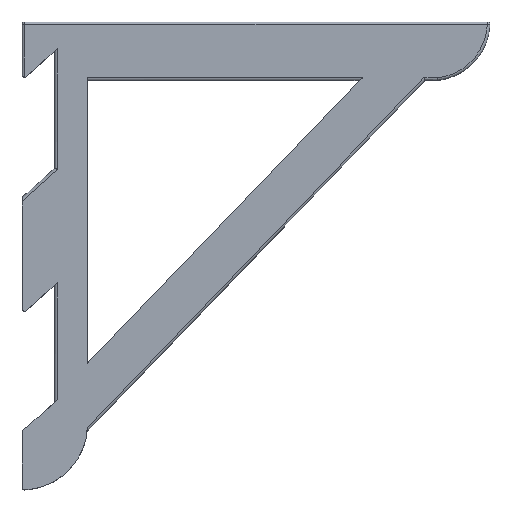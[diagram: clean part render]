
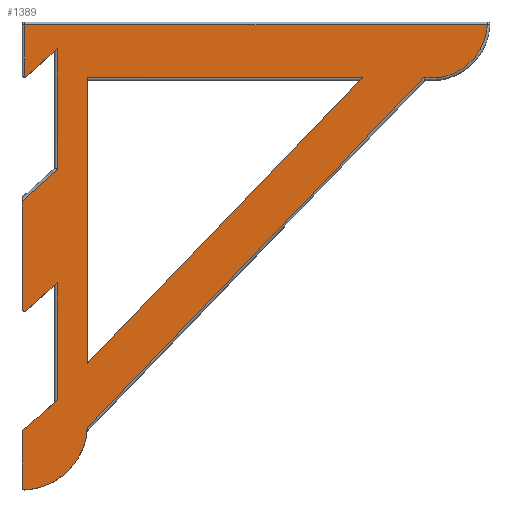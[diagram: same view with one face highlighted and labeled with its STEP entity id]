
A CAD part, top view. The second image highlights one B-rep face of the part: STEP entity #1389.
In plain terms, the highlighted planar face has unit normal (0, 0, 1).
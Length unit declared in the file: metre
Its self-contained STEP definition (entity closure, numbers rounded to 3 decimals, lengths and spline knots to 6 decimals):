
#78=CIRCLE('',#1480,0.031926);
#81=CIRCLE('',#1501,0.00127);
#82=CIRCLE('',#1502,0.00127);
#83=CIRCLE('',#1503,0.00127);
#84=CIRCLE('',#1504,0.027464);
#85=CIRCLE('',#1505,0.00127);
#267=ORIENTED_EDGE('',*,*,#655,.F.);
#268=ORIENTED_EDGE('',*,*,#681,.T.);
#269=ORIENTED_EDGE('',*,*,#682,.T.);
#270=ORIENTED_EDGE('',*,*,#600,.F.);
#271=ORIENTED_EDGE('',*,*,#683,.T.);
#272=ORIENTED_EDGE('',*,*,#666,.F.);
#273=ORIENTED_EDGE('',*,*,#684,.T.);
#274=ORIENTED_EDGE('',*,*,#672,.F.);
#275=ORIENTED_EDGE('',*,*,#685,.T.);
#276=ORIENTED_EDGE('',*,*,#674,.F.);
#277=ORIENTED_EDGE('',*,*,#686,.T.);
#278=ORIENTED_EDGE('',*,*,#633,.T.);
#279=ORIENTED_EDGE('',*,*,#687,.T.);
#280=ORIENTED_EDGE('',*,*,#688,.T.);
#281=ORIENTED_EDGE('',*,*,#689,.T.);
#282=ORIENTED_EDGE('',*,*,#690,.T.);
#283=ORIENTED_EDGE('',*,*,#691,.T.);
#284=ORIENTED_EDGE('',*,*,#692,.T.);
#285=ORIENTED_EDGE('',*,*,#693,.T.);
#286=ORIENTED_EDGE('',*,*,#679,.F.);
#287=ORIENTED_EDGE('',*,*,#625,.F.);
#600=EDGE_CURVE('',#812,#813,#940,.T.);
#625=EDGE_CURVE('',#837,#833,#951,.T.);
#633=EDGE_CURVE('',#840,#844,#78,.T.);
#655=EDGE_CURVE('',#863,#859,#975,.T.);
#666=EDGE_CURVE('',#872,#868,#985,.T.);
#672=EDGE_CURVE('',#876,#877,#991,.T.);
#674=EDGE_CURVE('',#878,#879,#992,.T.);
#679=EDGE_CURVE('',#833,#882,#997,.T.);
#681=EDGE_CURVE('',#863,#883,#998,.T.);
#682=EDGE_CURVE('',#883,#813,#999,.F.);
#683=EDGE_CURVE('',#812,#868,#81,.T.);
#684=EDGE_CURVE('',#872,#877,#1000,.F.);
#685=EDGE_CURVE('',#876,#879,#82,.T.);
#686=EDGE_CURVE('',#878,#840,#83,.T.);
#687=EDGE_CURVE('',#844,#884,#1001,.F.);
#688=EDGE_CURVE('',#884,#885,#1002,.T.);
#689=EDGE_CURVE('',#885,#886,#84,.T.);
#690=EDGE_CURVE('',#886,#887,#1003,.F.);
#691=EDGE_CURVE('',#887,#888,#1004,.F.);
#692=EDGE_CURVE('',#888,#859,#85,.T.);
#693=EDGE_CURVE('',#837,#882,#1005,.T.);
#812=VERTEX_POINT('',#1971);
#813=VERTEX_POINT('',#1972);
#833=VERTEX_POINT('',#2038);
#837=VERTEX_POINT('',#2045);
#840=VERTEX_POINT('',#2055);
#844=VERTEX_POINT('',#2067);
#859=VERTEX_POINT('',#2107);
#863=VERTEX_POINT('',#2114);
#868=VERTEX_POINT('',#2130);
#872=VERTEX_POINT('',#2137);
#876=VERTEX_POINT('',#2149);
#877=VERTEX_POINT('',#2151);
#878=VERTEX_POINT('',#2155);
#879=VERTEX_POINT('',#2156);
#882=VERTEX_POINT('',#2165);
#883=VERTEX_POINT('',#2169);
#884=VERTEX_POINT('',#2176);
#885=VERTEX_POINT('',#2178);
#886=VERTEX_POINT('',#2180);
#887=VERTEX_POINT('',#2182);
#888=VERTEX_POINT('',#2184);
#940=LINE('',#1970,#1052);
#951=LINE('',#2046,#1063);
#975=LINE('',#2115,#1087);
#985=LINE('',#2138,#1097);
#991=LINE('',#2150,#1103);
#992=LINE('',#2154,#1104);
#997=LINE('',#2164,#1109);
#998=LINE('',#2168,#1110);
#999=LINE('',#2170,#1111);
#1000=LINE('',#2172,#1112);
#1001=LINE('',#2175,#1113);
#1002=LINE('',#2177,#1114);
#1003=LINE('',#2181,#1115);
#1004=LINE('',#2183,#1116);
#1005=LINE('',#2186,#1117);
#1052=VECTOR('',#1604,1.);
#1063=VECTOR('',#1621,1.);
#1087=VECTOR('',#1671,1.);
#1097=VECTOR('',#1689,1.);
#1103=VECTOR('',#1699,1.);
#1104=VECTOR('',#1704,1.);
#1109=VECTOR('',#1711,1.);
#1110=VECTOR('',#1716,1.);
#1111=VECTOR('',#1717,1.);
#1112=VECTOR('',#1720,1.);
#1113=VECTOR('',#1725,1.);
#1114=VECTOR('',#1726,1.);
#1115=VECTOR('',#1729,1.);
#1116=VECTOR('',#1730,1.);
#1117=VECTOR('',#1733,1.);
#1182=EDGE_LOOP('',(#267,#268,#269,#270,#271,#272,#273,#274,#275,#276,#277,
#278,#279,#280,#281,#282,#283,#284));
#1183=EDGE_LOOP('',(#285,#286,#287));
#1274=FACE_BOUND('',#1182,.T.);
#1275=FACE_BOUND('',#1183,.T.);
#1363=PLANE('',#1500);
#1389=ADVANCED_FACE('',(#1274,#1275),#1363,.T.);
#1480=AXIS2_PLACEMENT_3D('',#2068,#1633,#1634);
#1500=AXIS2_PLACEMENT_3D('',#2167,#1714,#1715);
#1501=AXIS2_PLACEMENT_3D('',#2171,#1718,#1719);
#1502=AXIS2_PLACEMENT_3D('',#2173,#1721,#1722);
#1503=AXIS2_PLACEMENT_3D('',#2174,#1723,#1724);
#1504=AXIS2_PLACEMENT_3D('',#2179,#1727,#1728);
#1505=AXIS2_PLACEMENT_3D('',#2185,#1731,#1732);
#1604=DIRECTION('',(0.,1.,0.));
#1621=DIRECTION('',(0.,-1.,0.));
#1633=DIRECTION('',(0.,0.,1.));
#1634=DIRECTION('',(1.,0.,0.));
#1671=DIRECTION('',(-0.743,-0.669,0.));
#1689=DIRECTION('',(-0.743,-0.669,0.));
#1699=DIRECTION('',(0.743,0.669,0.));
#1704=DIRECTION('',(0.,1.,0.));
#1711=DIRECTION('',(0.694,0.72,0.));
#1714=DIRECTION('',(0.,0.,1.));
#1715=DIRECTION('',(1.,0.,0.));
#1716=DIRECTION('',(0.,-1.,0.));
#1717=DIRECTION('',(0.743,0.669,0.));
#1718=DIRECTION('',(0.,0.,1.));
#1719=DIRECTION('',(1.,0.,0.));
#1720=DIRECTION('',(0.,1.,0.));
#1721=DIRECTION('',(0.,0.,1.));
#1722=DIRECTION('',(1.,0.,0.));
#1723=DIRECTION('',(0.,0.,1.));
#1724=DIRECTION('',(1.,0.,0.));
#1725=DIRECTION('',(-0.694,-0.72,0.));
#1726=DIRECTION('',(1.,0.,0.));
#1727=DIRECTION('',(0.,0.,1.));
#1728=DIRECTION('',(1.,0.,0.));
#1729=DIRECTION('',(1.,0.,0.));
#1730=DIRECTION('',(0.,1.,0.));
#1731=DIRECTION('',(0.,0.,1.));
#1732=DIRECTION('',(1.,0.,0.));
#1733=DIRECTION('',(1.,0.,0.));
#1970=CARTESIAN_POINT('',(-0.015875,0.007144,0.03175));
#1971=CARTESIAN_POINT('',(-0.015875,-0.025723,0.03175));
#1972=CARTESIAN_POINT('',(-0.015875,0.026866,0.03175));
#2038=CARTESIAN_POINT('',(0.015875,-0.052754,0.03175));
#2045=CARTESIAN_POINT('',(0.015875,0.086995,0.03175));
#2046=CARTESIAN_POINT('',(0.015875,-0.026377,0.03175));
#2055=CARTESIAN_POINT('',(-0.014552,-0.114273,0.03175));
#2067=CARTESIAN_POINT('',(0.016022,-0.083741,0.03175));
#2068=CARTESIAN_POINT('',(-0.015875,-0.082374,0.03175));
#2107=CARTESIAN_POINT('',(-0.013755,0.087633,0.03175));
#2114=CARTESIAN_POINT('',(0.00127,0.101156,0.03175));
#2115=CARTESIAN_POINT('',(-0.007938,0.092869,0.03175));
#2130=CARTESIAN_POINT('',(-0.013755,-0.026667,0.03175));
#2137=CARTESIAN_POINT('',(0.00127,-0.013145,0.03175));
#2138=CARTESIAN_POINT('',(-0.007938,-0.021431,0.03175));
#2149=CARTESIAN_POINT('',(-0.015455,-0.085347,0.03175));
#2150=CARTESIAN_POINT('',(-0.007938,-0.078581,0.03175));
#2151=CARTESIAN_POINT('',(0.00127,-0.070295,0.03175));
#2154=CARTESIAN_POINT('',(-0.015875,-0.100013,0.03175));
#2155=CARTESIAN_POINT('',(-0.015875,-0.113004,0.03175));
#2156=CARTESIAN_POINT('',(-0.015875,-0.086291,0.03175));
#2164=CARTESIAN_POINT('',(0.08255,0.016486,0.03175));
#2165=CARTESIAN_POINT('',(0.150448,0.086995,0.03175));
#2167=CARTESIAN_POINT('',(0.098425,0.,0.03175));
#2168=CARTESIAN_POINT('',(0.00127,0.042863,0.03175));
#2169=CARTESIAN_POINT('',(0.00127,0.042297,0.03175));
#2170=CARTESIAN_POINT('',(0.033915,0.071678,0.03175));
#2171=CARTESIAN_POINT('',(-0.014605,-0.025723,0.03175));
#2172=CARTESIAN_POINT('',(0.00127,0.,0.03175));
#2173=CARTESIAN_POINT('',(-0.014605,-0.086291,0.03175));
#2174=CARTESIAN_POINT('',(-0.014605,-0.113004,0.03175));
#2175=CARTESIAN_POINT('',(0.09751,0.000881,0.03175));
#2176=CARTESIAN_POINT('',(0.180435,0.086995,0.03175));
#2177=CARTESIAN_POINT('',(0.187008,0.086995,0.03175));
#2178=CARTESIAN_POINT('',(0.18694,0.086995,0.03175));
#2179=CARTESIAN_POINT('',(0.183991,0.1143,0.03175));
#2180=CARTESIAN_POINT('',(0.211426,0.11303,0.03175));
#2181=CARTESIAN_POINT('',(0.098425,0.11303,0.03175));
#2182=CARTESIAN_POINT('',(-0.014605,0.11303,0.03175));
#2183=CARTESIAN_POINT('',(-0.014605,0.,0.03175));
#2184=CARTESIAN_POINT('',(-0.014605,0.087307,0.03175));
#2185=CARTESIAN_POINT('',(-0.014605,0.088577,0.03175));
#2186=CARTESIAN_POINT('',(0.149225,0.086995,0.03175));
